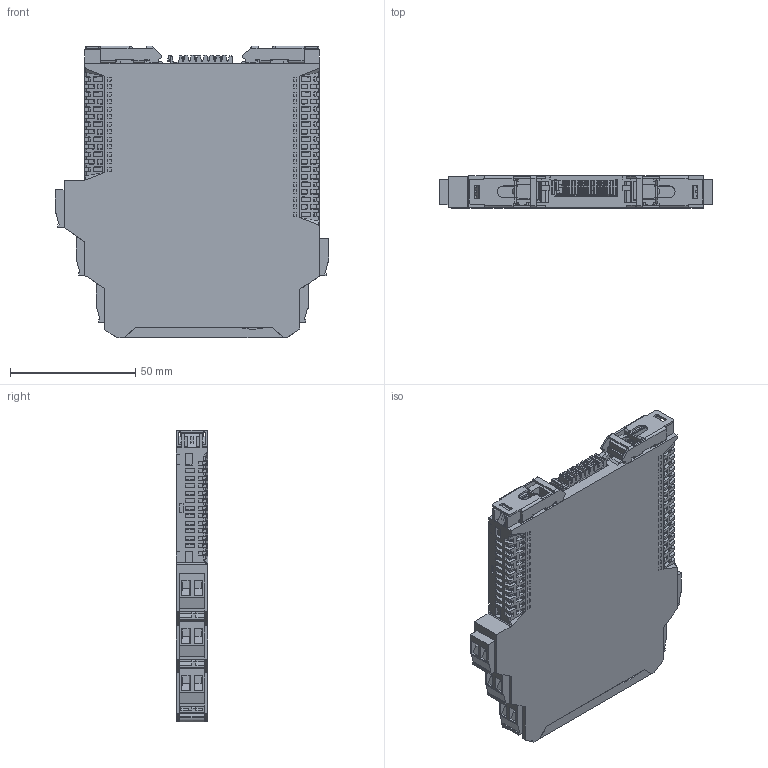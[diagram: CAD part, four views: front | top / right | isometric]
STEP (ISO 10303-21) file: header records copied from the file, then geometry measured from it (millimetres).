
FILE_DESCRIPTION((''),'2;1');
FILE_NAME('D:\ТЗ\Для отдела рекламы\БИГ\БИГ-1-2-22.stp','2024-07-08T12:14:57',('A.V.Dzhibladze'),(''),'Autodesk Inventor 2012','Autodesk Inventor 2012','');
FILE_SCHEMA(('AUTOMOTIVE_DESIGN { 1 2 10303 214 0 1 1 1 }'));
Length unit declared in the file: millimetre
Products named in the file (1): БИГ-1-2-22
Bounding box: 109.1 x 12.75 x 116.55 mm (x, y, z)
Volume: 130857.7 mm3; surface area: 36969.1 mm2
Topology: 2 solids, 6 shells, 2973 faces, 8351 edges, 5487 vertices
Faces by surface type: plane 2225, cylinder 681, bspline 52, sphere 6, torus 5, cone 4
Full cylindrical faces by diameter (mm): 2 x2, 2.05 x2, 2.7 x1, 3.6 x10
Entity records: 100083 total; most frequent: CARTESIAN_POINT 20694, ORIENTED_EDGE 16612, DIRECTION 15260, EDGE_CURVE 8306, VECTOR 6596, LINE 6596, VERTEX_POINT 5467, AXIS2_PLACEMENT_3D 4332
